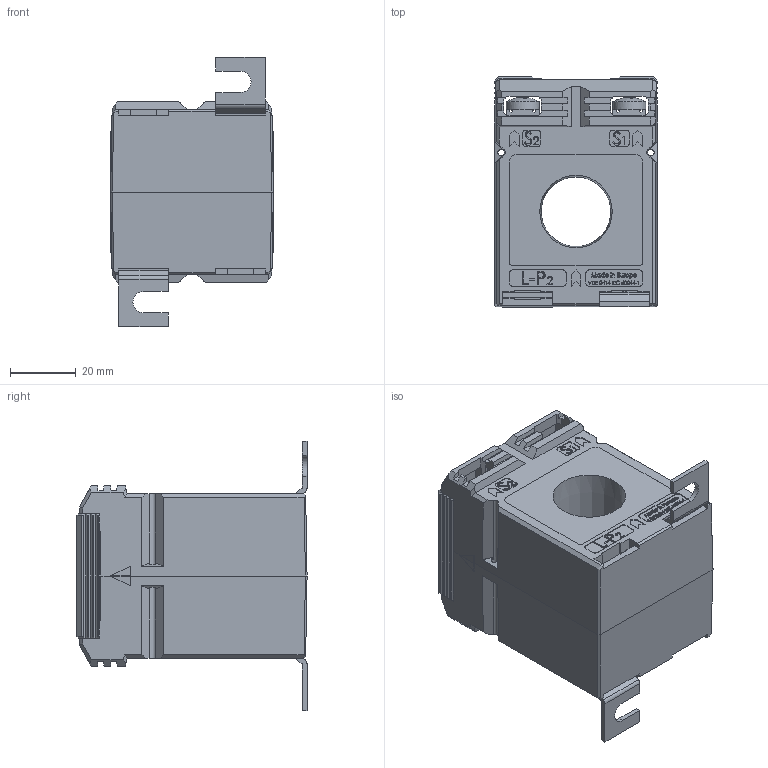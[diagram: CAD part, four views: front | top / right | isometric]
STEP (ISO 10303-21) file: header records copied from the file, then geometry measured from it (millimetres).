
FILE_DESCRIPTION(/* description */ (''),/* implementation_level */ '2;1');
FILE_NAME(/* name */ 'ASR21.5.stp',/* time_stamp */ '2024-03-05T09:47:49+01:00',/* author */ ('JDI'),/* organization */ (''),/* preprocessor_version */ 'ST-DEVELOPER v19.2',/* originating_system */ 'Autodesk Inventor 2023',/* authorisation */ '');
FILE_SCHEMA (('AUTOMOTIVE_DESIGN { 1 0 10303 214 3 1 1 }'));
Products named in the file (1): ASR21.5
Bounding box: 49.9 x 70.02 x 82 mm (x, y, z)
Volume: 134502.7 mm3; surface area: 34384.5 mm2
Topology: 1 solids, 1 shells, 1654 faces, 4426 edges, 2858 vertices
Faces by surface type: plane 1256, bspline 312, cylinder 52, cone 22, sphere 8, torus 4
Full cylindrical faces by diameter (mm): 3 x2, 10 x4
Entity records: 69248 total; most frequent: CARTESIAN_POINT 28347, ORIENTED_EDGE 8852, DIRECTION 6754, EDGE_CURVE 4426, LINE 3488, VECTOR 3488, VERTEX_POINT 2858, EDGE_LOOP 1790
